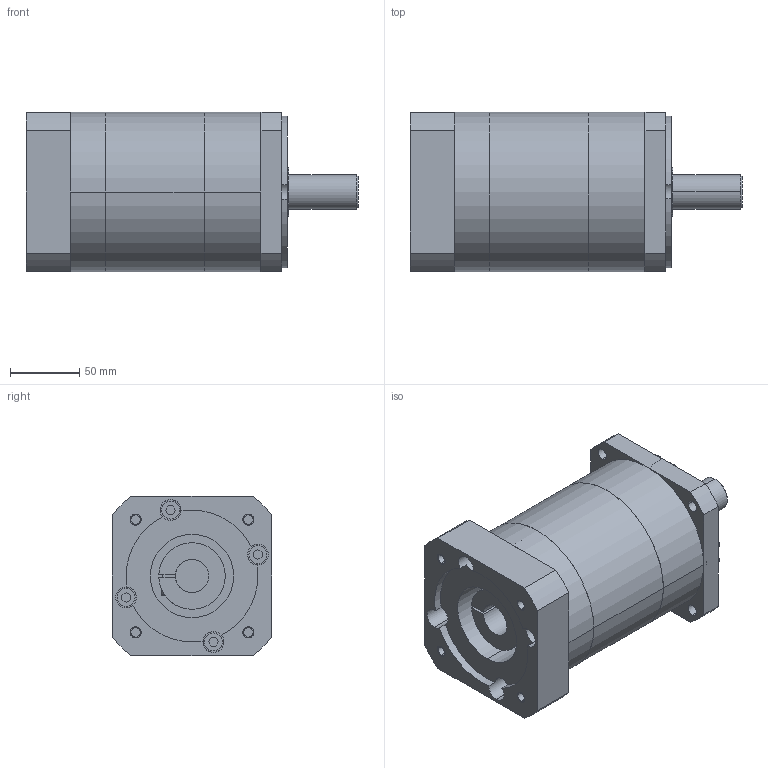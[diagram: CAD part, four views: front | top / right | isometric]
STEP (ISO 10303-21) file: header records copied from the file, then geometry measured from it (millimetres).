
FILE_DESCRIPTION((''),'2;1');
FILE_NAME('MB_PLE_MASTER','2019-07-31T',('agw'),(''),'CREO PARAMETRIC BY PTC INC, 2015290','CREO PARAMETRIC BY PTC INC, 2015290','');
FILE_SCHEMA(('AUTOMOTIVE_DESIGN { 1 0 10303 214 1 1 1 1 }'));
Length unit declared in the file: millimetre
Products named in the file (1): MB_PLE_MASTER
Bounding box: 239.5 x 115 x 115 mm (x, y, z)
Volume: 1936701.1 mm3; surface area: 152419.2 mm2
Topology: 1 solids, 10 shells, 295 faces, 696 edges, 460 vertices
Faces by surface type: plane 172, cylinder 117, torus 4, cone 2
Entity records: 9039 total; most frequent: DIRECTION 1560, CARTESIAN_POINT 1493, ORIENTED_EDGE 1376, EDGE_CURVE 696, AXIS2_PLACEMENT_3D 570, VERTEX_POINT 460, VECTOR 420, LINE 420
